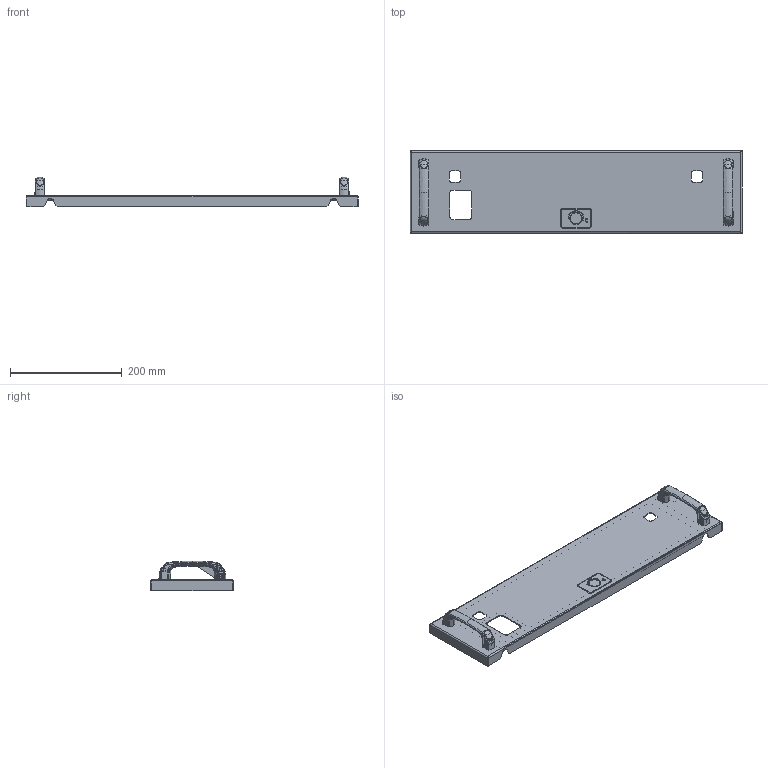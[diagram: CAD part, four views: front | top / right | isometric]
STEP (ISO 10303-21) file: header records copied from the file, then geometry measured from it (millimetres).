
FILE_DESCRIPTION(('CAx-IF Rec.Pracs.---Model Styling and Organization---1.2---2011-12-15','CAx-IF Rec.Pracs.---Geometric and Assembly Validation Properties---4.1---2014-06-16','CAx-IF Rec.Pracs.---PMI Polyline Presentation---2.0---2013-05-24'),'2;1');
FILE_NAME('R5M2W3M1BF-L.stp','2021-05-05T12:12:36+03:00',(''),(''),'STEP Interface 4.4 by CT CoreTechnologie','3D_Evolution4.4 by CT CoreTechnologie','');
FILE_SCHEMA(('AUTOMOTIVE_DESIGN { 1 0 10303 214 1 1 1 1 }'));
Length unit declared in the file: millimetre
Products named in the file (15): R5M2W3M1BF-L; AC00C148_AC00C148; 4.444.001; PR.DT477.100.02; PR.DT477.100.01; Ì5-GOST 5915-70 (DIN 934)_straight; RB.1942.00.00.0_-00; PF 3.5x7 RAMmcc 2.0_00; RB.1166.00.05.0; PF 7x14 RAMmcc 2.0_3å1; Ì6õ12-A5100231_straight; RB.1166.00.03.0_-00; RB.1166.00.04.0_-00; RB.1942.00.01.0_-00; RB.1166.00.02.0_¢ à 1
Assembly tree (21 placements, depth 3):
  R5M2W3M1BF-L
    AC00C148_AC00C148  x2
    4.444.001  x2
      PR.DT477.100.02
      PR.DT477.100.01
    Ì5-GOST 5915-70 (DIN 934)_straight  x4
    RB.1942.00.00.0_-00
      PF 3.5x7 RAMmcc 2.0_00
      RB.1166.00.05.0  x2
      PF 7x14 RAMmcc 2.0_3å1
      Ì6õ12-A5100231_straight
      RB.1166.00.03.0_-00
      RB.1166.00.04.0_-00
      RB.1942.00.01.0_-00
      RB.1166.00.02.0_¢ à 1
Bounding box: 594 x 147 x 52.94 mm (x, y, z)
Surface area: 316913.7 mm2 (no closed solid volume)
Topology: 0 solids, 23 shells, 2516 faces, 6103 edges, 3596 vertices
Faces by surface type: bspline 1488, plane 699, cylinder 329
Entity records: 60536 total; most frequent: CARTESIAN_POINT 32264, ORIENTED_EDGE 6078, DIRECTION 5433, EDGE_CURVE 3039, AXIS2_PLACEMENT_3D 2079, VERTEX_POINT 1824, CIRCLE 1511, EDGE_LOOP 1313
